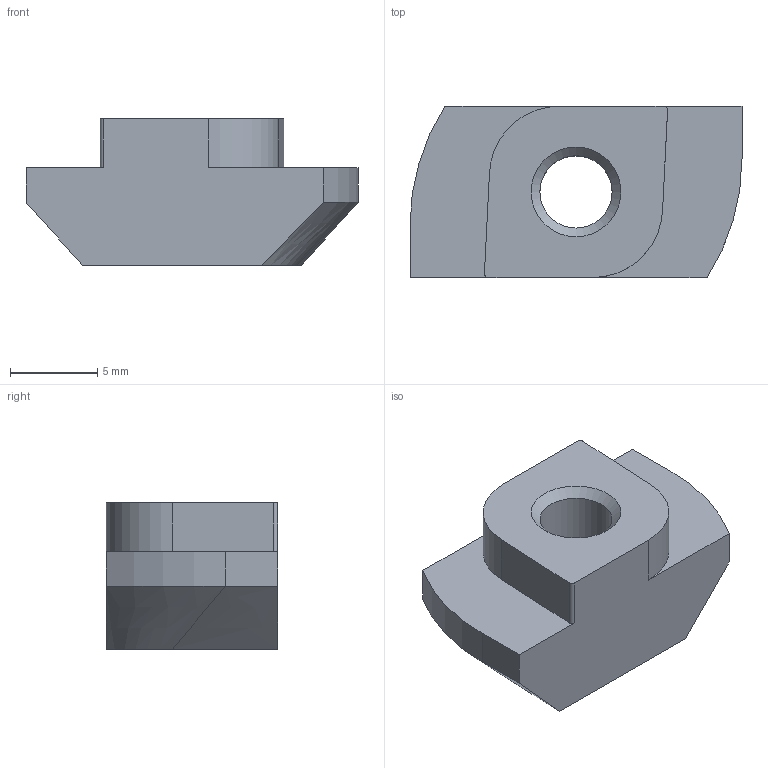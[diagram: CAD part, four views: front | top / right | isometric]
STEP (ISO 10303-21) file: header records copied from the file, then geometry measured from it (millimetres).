
FILE_DESCRIPTION((''),'2;1');
FILE_NAME('E:\catalogue and flyer\Profile catalogue 2015\Accessories JE info\Accessories-JE step file 31MAr16\JE-RN5-10.stp','2016-03-31T16:38:14',('h029'),(''),'Autodesk Inventor 11','Autodesk Inventor 11','');
FILE_SCHEMA(('AUTOMOTIVE_DESIGN { 1 0 10303 214 1 1 1 1 }'));
Length unit declared in the file: millimetre
Products named in the file (1): JE-RN5-10
Bounding box: 19 x 9.8 x 8.4 mm (x, y, z)
Volume: 1021 mm3; surface area: 776.3 mm2
Topology: 1 solids, 1 shells, 22 faces, 58 edges, 38 vertices
Faces by surface type: plane 10, cylinder 6, bspline 5, cone 1
Entity records: 803 total; most frequent: CARTESIAN_POINT 249, ORIENTED_EDGE 110, DIRECTION 105, EDGE_CURVE 55, VERTEX_POINT 37, AXIS2_PLACEMENT_3D 35, VECTOR 35, LINE 35
